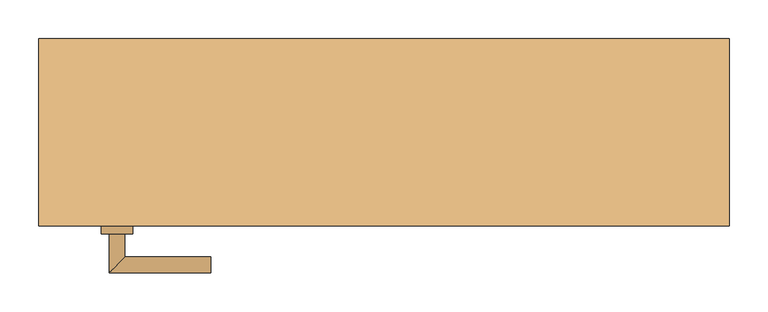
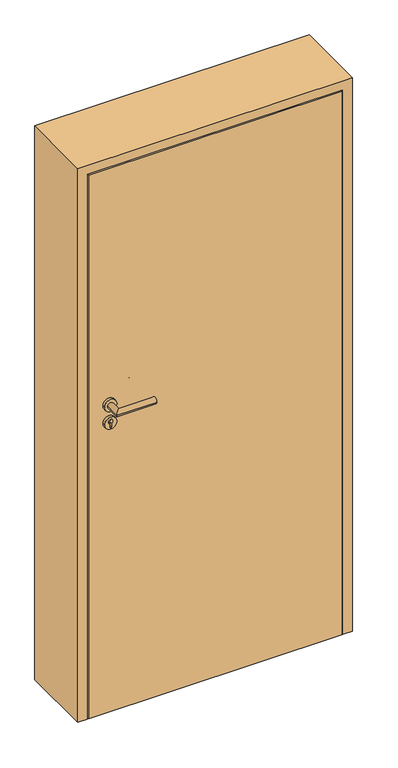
"""IFC4 building model written with IfcOpenShell, lengths in millimetres: door geometry, TU DF 1 - Rahmenstock flächenbündig variabel : ML - H - 885 x 1885."""

from ifc_helpers import new_model, si_unit, point, frame, frame_2d, origin, origin_with_axes, place, context, project, spatial, polyline, circle_curve, ellipse_curve, trimmed, segment, composite_curve, outline, extrude, faceted_brep, source, transform, mapped, element, save
from ifc_brep_helpers import plane_surface, cylinder_surface, advanced_brep


def door_1b2f5746(model_context):
    return source(origin(), model_context, "Body", "SolidModel", [
        extrude(outline(polyline([(408.5, -120.0), (-408.5, -120.0), (-408.5, -75.0), (408.5, -75.0), (408.5, -120.0)])), origin_with_axes(), (0.0, 0.0, 1.0), 1851.0),
        advanced_brep(
        [(-332.5, -130.0, 1050.0), (-352.5, -130.0, 1050.0), (-352.5, -180.0, 1050.0), (-332.5, -160.0, 1050.0), (-222.5, -160.0, 1050.0), (-222.5, -180.0, 1050.0)],
        [
            (0, 1, circle_curve(frame((-342.5, -130.0, 1050.0), z_axis=(0.0, 1.0, 0.0), x_axis=(-1.0, 0.0, 0.0)), 10.0)),
            (1, 0, circle_curve(frame((-342.5, -130.0, 1050.0), z_axis=(0.0, 1.0, 0.0), x_axis=(-1.0, 0.0, 0.0)), 10.0)),
            (1, 2),
            (2, 3, ellipse_curve(frame((-342.5, -170.0, 1050.0), z_axis=(-0.7071067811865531, 0.7071067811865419, 0.0), x_axis=(0.707106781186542, 0.707106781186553, 0.0)), 14.1421356, 10.0)),
            (3, 0),
            (3, 2, ellipse_curve(frame((-342.5, -170.0, 1050.0), z_axis=(-0.7071067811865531, 0.7071067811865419, 0.0), x_axis=(0.707106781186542, 0.707106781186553, 0.0)), 14.1421356, 10.0)),
            (4, 5, circle_curve(frame((-222.5, -170.0, 1050.0), z_axis=(1.0, 0.0, 0.0), x_axis=(0.0, -1.0, 0.0)), 10.0)),
            (5, 4, circle_curve(frame((-222.5, -170.0, 1050.0), z_axis=(1.0, 0.0, 0.0), x_axis=(0.0, -1.0, 0.0)), 10.0)),
            (2, 5),
            (4, 3),
        ],
        [
            plane_surface(frame((-342.5, -130.0, 1050.0), z_axis=(0.0, 1.0, 0.0), x_axis=(0.0, 0.0, 1.0))),
            cylinder_surface(frame((-342.5, -130.0, 1050.0), z_axis=(0.0, 1.0, 0.0), x_axis=(-1.0, 0.0, 0.0)), 10.0),
            plane_surface(frame((-222.5, -170.0, 1050.0), z_axis=(1.0, 0.0, 0.0), x_axis=(0.0, 0.0, 1.0))),
            cylinder_surface(frame((-342.5, -170.0, 1050.0), z_axis=(-1.0, 0.0, 0.0), x_axis=(0.0, -1.0, 0.0)), 10.0),
        ],
        [
            (0, [[1, 2]]),
            (1, [[3, 4, 5, -2]]),
            (1, [[-5, 6, -3, -1]]),
            (2, [[7, 8]]),
            (3, [[9, -7, 10, -4]]),
            (3, [[-10, -8, -9, -6]]),
        ],
    ),
        extrude(outline(composite_curve([segment(trimmed(circle_curve(frame_2d((990.0, -342.5)), 20.0), [point((990.0, -362.5))], [point((990.0, -322.5))], False, "CARTESIAN"), True, "CONTINUOUS"), segment(trimmed(circle_curve(frame_2d((990.0, -342.5)), 20.0), [point((990.0, -322.5))], [point((990.0, -362.5))], False, "CARTESIAN"), True, "CONTINUOUS")], self_intersect=False), holes=[composite_curve([segment(polyline([(976.4601385, -344.897268), (988.4749012, -344.897268)]), True, "CONTINUOUS"), segment(trimmed(circle_curve(frame_2d((995.0361633, -342.5)), 6.9854888), [point((988.4749012, -344.897268))], [point((988.4749012, -340.102732))], True, "CARTESIAN"), True, "CONTINUOUS"), segment(polyline([(988.4749012, -340.102732), (976.4601385, -340.102732)]), True, "CONTINUOUS"), segment(trimmed(circle_curve(frame_2d((976.4601385, -342.5)), 2.397268), [point((976.4601385, -340.102732))], [point((976.4601385, -344.897268))], True, "CARTESIAN"), True, "CONTINUOUS")], self_intersect=False)]), frame((0.0, -130.0, 0.0), z_axis=(0.0, 1.0, 0.0), x_axis=(0.0, 0.0, 1.0)), (0.0, 0.0, 1.0), 10.0),
        advanced_brep(
        [(-332.5, -130.0, 1050.0), (-352.5, -130.0, 1050.0), (-352.5, -180.0, 1050.0), (-332.5, -160.0, 1050.0), (-222.5, -160.0, 1050.0), (-222.5, -180.0, 1050.0)],
        [
            (0, 1, circle_curve(frame((-342.5, -130.0, 1050.0), z_axis=(0.0, 1.0, 0.0), x_axis=(-1.0, 0.0, 0.0)), 10.0)),
            (1, 0, circle_curve(frame((-342.5, -130.0, 1050.0), z_axis=(0.0, 1.0, 0.0), x_axis=(-1.0, 0.0, 0.0)), 10.0)),
            (1, 2),
            (2, 3, ellipse_curve(frame((-342.5, -170.0, 1050.0), z_axis=(-0.7071067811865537, 0.7071067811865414, 0.0), x_axis=(0.7071067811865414, 0.7071067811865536, 0.0)), 14.1421356, 10.0)),
            (3, 0),
            (3, 2, ellipse_curve(frame((-342.5, -170.0, 1050.0), z_axis=(-0.7071067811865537, 0.7071067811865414, 0.0), x_axis=(0.7071067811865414, 0.7071067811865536, 0.0)), 14.1421356, 10.0)),
            (4, 5, circle_curve(frame((-222.5, -170.0, 1050.0), z_axis=(1.0, 0.0, 0.0), x_axis=(0.0, -1.0, 0.0)), 10.0)),
            (5, 4, circle_curve(frame((-222.5, -170.0, 1050.0), z_axis=(1.0, 0.0, 0.0), x_axis=(0.0, -1.0, 0.0)), 10.0)),
            (2, 5),
            (4, 3),
        ],
        [
            plane_surface(frame((-342.5, -130.0, 1050.0), z_axis=(0.0, 1.0, 0.0), x_axis=(0.0, 0.0, 1.0))),
            cylinder_surface(frame((-342.5, -130.0, 1050.0), z_axis=(0.0, 1.0, 0.0), x_axis=(-1.0, 0.0, 0.0)), 10.0),
            plane_surface(frame((-222.5, -170.0, 1050.0), z_axis=(1.0, 0.0, 0.0), x_axis=(0.0, 0.0, 1.0))),
            cylinder_surface(frame((-342.5, -170.0, 1050.0), z_axis=(-1.0, 0.0, 0.0), x_axis=(0.0, -1.0, 0.0)), 10.0),
        ],
        [
            (0, [[1, 2]]),
            (1, [[3, 4, 5, -2]]),
            (1, [[-5, 6, -3, -1]]),
            (2, [[7, 8]]),
            (3, [[9, -7, 10, -4]]),
            (3, [[-10, -8, -9, -6]]),
        ],
    ),
        extrude(outline(composite_curve([segment(trimmed(circle_curve(frame_2d((1050.0, -342.5)), 20.0), [point((1050.0, -362.5))], [point((1050.0, -322.5))], False, "CARTESIAN"), True, "CONTINUOUS"), segment(trimmed(circle_curve(frame_2d((1050.0, -342.5)), 20.0), [point((1050.0, -322.5))], [point((1050.0, -362.5))], False, "CARTESIAN"), True, "CONTINUOUS")], self_intersect=False)), frame((0.0, -130.0, 0.0), z_axis=(0.0, 1.0, 0.0), x_axis=(0.0, 0.0, 1.0)), (0.0, 0.0, 1.0), 10.0),
        advanced_brep(
        [(-332.5, -65.0, 1050.0), (-352.5, -65.0, 1050.0), (-332.5, -35.0, 1050.0), (-352.5, -15.0, 1050.0), (-222.5, -35.0, 1050.0), (-222.5, -15.0, 1050.0)],
        [
            (0, 1, circle_curve(frame((-342.5, -65.0, 1050.0), z_axis=(0.0, -1.0, 0.0), x_axis=(-1.0, 0.0, 0.0)), 10.0)),
            (1, 0, circle_curve(frame((-342.5, -65.0, 1050.0), z_axis=(0.0, -1.0, 0.0), x_axis=(-1.0, 0.0, 0.0)), 10.0)),
            (0, 2),
            (2, 3, ellipse_curve(frame((-342.5, -25.0, 1050.0), z_axis=(-0.7071067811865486, -0.7071067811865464, 0.0), x_axis=(0.7071067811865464, -0.7071067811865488, 0.0)), 14.1421356, 10.0)),
            (3, 1),
            (3, 2, ellipse_curve(frame((-342.5, -25.0, 1050.0), z_axis=(-0.7071067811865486, -0.7071067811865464, 0.0), x_axis=(0.7071067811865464, -0.7071067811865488, 0.0)), 14.1421356, 10.0)),
            (4, 5, circle_curve(frame((-222.5, -25.0, 1050.0), z_axis=(1.0, 0.0, 0.0), x_axis=(0.0, 1.0, 0.0)), 10.0)),
            (5, 4, circle_curve(frame((-222.5, -25.0, 1050.0), z_axis=(1.0, 0.0, 0.0), x_axis=(0.0, 1.0, 0.0)), 10.0)),
            (2, 4),
            (5, 3),
        ],
        [
            plane_surface(frame((-342.5, -65.0, 1050.0), z_axis=(0.0, -1.0, 0.0), x_axis=(0.0, 0.0, 1.0))),
            cylinder_surface(frame((-342.5, -65.0, 1050.0), z_axis=(0.0, -1.0, 0.0), x_axis=(-1.0, 0.0, 0.0)), 10.0),
            plane_surface(frame((-222.5, -25.0, 1050.0), z_axis=(1.0, 0.0, 0.0), x_axis=(0.0, 0.0, 1.0))),
            cylinder_surface(frame((-342.5, -25.0, 1050.0), z_axis=(-1.0, 0.0, 0.0), x_axis=(0.0, 1.0, 0.0)), 10.0),
        ],
        [
            (0, [[1, 2]]),
            (1, [[-1, 3, 4, 5]]),
            (1, [[-2, -5, 6, -3]]),
            (2, [[7, 8]]),
            (3, [[-4, 9, -8, 10]]),
            (3, [[-6, -10, -7, -9]]),
        ],
    ),
        extrude(outline(composite_curve([segment(trimmed(circle_curve(frame_2d((990.0, -342.5)), 20.0), [point((990.0, -362.5))], [point((990.0, -322.5))], False, "CARTESIAN"), True, "CONTINUOUS"), segment(trimmed(circle_curve(frame_2d((990.0, -342.5)), 20.0), [point((990.0, -322.5))], [point((990.0, -362.5))], False, "CARTESIAN"), True, "CONTINUOUS")], self_intersect=False), holes=[composite_curve([segment(polyline([(976.4601385, -344.897268), (988.4749012, -344.897268)]), True, "CONTINUOUS"), segment(trimmed(circle_curve(frame_2d((995.0361633, -342.5)), 6.9854888), [point((988.4749012, -344.897268))], [point((988.4749012, -340.102732))], True, "CARTESIAN"), True, "CONTINUOUS"), segment(polyline([(988.4749012, -340.102732), (976.4601385, -340.102732)]), True, "CONTINUOUS"), segment(trimmed(circle_curve(frame_2d((976.4601385, -342.5)), 2.397268), [point((976.4601385, -340.102732))], [point((976.4601385, -344.897268))], True, "CARTESIAN"), True, "CONTINUOUS")], self_intersect=False)]), frame((0.0, -75.0, 0.0), z_axis=(0.0, 1.0, 0.0), x_axis=(0.0, 0.0, 1.0)), (0.0, 0.0, 1.0), 10.0),
        advanced_brep(
        [(-332.5, -65.0, 1050.0), (-352.5, -65.0, 1050.0), (-332.5, -35.0, 1050.0), (-352.5, -15.0, 1050.0), (-222.5, -35.0, 1050.0), (-222.5, -15.0, 1050.0)],
        [
            (0, 1, circle_curve(frame((-342.5, -65.0, 1050.0), z_axis=(0.0, -1.0, 0.0), x_axis=(-1.0, 0.0, 0.0)), 10.0)),
            (1, 0, circle_curve(frame((-342.5, -65.0, 1050.0), z_axis=(0.0, -1.0, 0.0), x_axis=(-1.0, 0.0, 0.0)), 10.0)),
            (0, 2),
            (2, 3, ellipse_curve(frame((-342.5, -25.0, 1050.0), z_axis=(-0.7071067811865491, -0.7071067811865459, 0.0), x_axis=(0.7071067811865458, -0.7071067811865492, 0.0)), 14.1421356, 10.0)),
            (3, 1),
            (3, 2, ellipse_curve(frame((-342.5, -25.0, 1050.0), z_axis=(-0.7071067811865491, -0.7071067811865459, 0.0), x_axis=(0.7071067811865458, -0.7071067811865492, 0.0)), 14.1421356, 10.0)),
            (4, 5, circle_curve(frame((-222.5, -25.0, 1050.0), z_axis=(1.0, 0.0, 0.0), x_axis=(0.0, 1.0, 0.0)), 10.0)),
            (5, 4, circle_curve(frame((-222.5, -25.0, 1050.0), z_axis=(1.0, 0.0, 0.0), x_axis=(0.0, 1.0, 0.0)), 10.0)),
            (2, 4),
            (5, 3),
        ],
        [
            plane_surface(frame((-342.5, -65.0, 1050.0), z_axis=(0.0, -1.0, 0.0), x_axis=(0.0, 0.0, 1.0))),
            cylinder_surface(frame((-342.5, -65.0, 1050.0), z_axis=(0.0, -1.0, 0.0), x_axis=(-1.0, 0.0, 0.0)), 10.0),
            plane_surface(frame((-222.5, -25.0, 1050.0), z_axis=(1.0, 0.0, 0.0), x_axis=(0.0, 0.0, 1.0))),
            cylinder_surface(frame((-342.5, -25.0, 1050.0), z_axis=(-1.0, 0.0, 0.0), x_axis=(0.0, 1.0, 0.0)), 10.0),
        ],
        [
            (0, [[1, 2]]),
            (1, [[-1, 3, 4, 5]]),
            (1, [[-2, -5, 6, -3]]),
            (2, [[7, 8]]),
            (3, [[-4, 9, -8, 10]]),
            (3, [[-6, -10, -7, -9]]),
        ],
    ),
        extrude(outline(composite_curve([segment(trimmed(circle_curve(frame_2d((1050.0, -342.5)), 20.0), [point((1050.0, -362.5))], [point((1050.0, -322.5))], False, "CARTESIAN"), True, "CONTINUOUS"), segment(trimmed(circle_curve(frame_2d((1050.0, -342.5)), 20.0), [point((1050.0, -322.5))], [point((1050.0, -362.5))], False, "CARTESIAN"), True, "CONTINUOUS")], self_intersect=False)), frame((0.0, -75.0, 0.0), z_axis=(0.0, 1.0, 0.0), x_axis=(0.0, 0.0, 1.0)), (0.0, 0.0, 1.0), 10.0),
        faceted_brep([(-412.5, -120.0, 0.0), (-442.5, -120.0, 0.0), (-442.5, 120.0, 0.0), (-397.5, 120.0, 0.0), (-397.5, -75.0, 0.0), (-412.5, -75.0, 0.0), (-412.5, -75.0, 1855.0), (-412.5, -120.0, 1855.0), (-397.5, -75.0, 1840.0), (397.5, -75.0, 1840.0), (397.5, -75.0, 0.0), (412.5, -75.0, 0.0), (412.5, -75.0, 1855.0), (-397.5, 120.0, 1840.0), (-442.5, 120.0, 1885.0), (442.5, 120.0, 1885.0), (442.5, 120.0, 0.0), (397.5, 120.0, 0.0), (397.5, 120.0, 1840.0), (-442.5, -120.0, 1885.0), (412.5, -120.0, 1855.0), (412.5, -120.0, 0.0), (442.5, -120.0, 0.0), (442.5, -120.0, 1885.0)], [[[0, 1, 2, 3, 4, 5]], [[5, 6, 7, 0]], [[4, 8, 9, 10, 11, 12, 6, 5]], [[3, 13, 8, 4]], [[2, 14, 15, 16, 17, 18, 13, 3]], [[1, 19, 14, 2]], [[0, 7, 20, 21, 22, 23, 19, 1]], [[23, 22, 16, 15]], [[21, 11, 10, 17, 16, 22]], [[12, 11, 21, 20]], [[18, 17, 10, 9]], [[19, 23, 15, 14]], [[13, 18, 9, 8]], [[6, 12, 20, 7]]]),
    ])


if __name__ == "__main__":
    model = new_model("IFC4")
    model_context = context("Model", 3, world=origin())
    ifc_project = project(units=[si_unit("LENGTHUNIT", "METRE", prefix="MILLI")], contexts=[model_context])
    site = spatial("IfcSite", under=ifc_project)
    building = spatial("IfcBuilding", under=site)
    placement = place(None, origin())
    door_shape = door_1b2f5746(model_context)
    element("IfcDoor", 1, ObjectType="TU DF 1 - Rahmenstock flächenbündig variabel : ML - H - 885 x 1885", at=placement, inside=building, context=model_context, shape_type="MappedRepresentation", body=[
        mapped(door_shape, transform((0.0, 0.0, 0.0), x_axis=(1.0, 0.0, 0.0), y_axis=(0.0, 1.0, 0.0), z_axis=(0.0, 0.0, 1.0))),
    ])
    save(model, "model.ifc")
